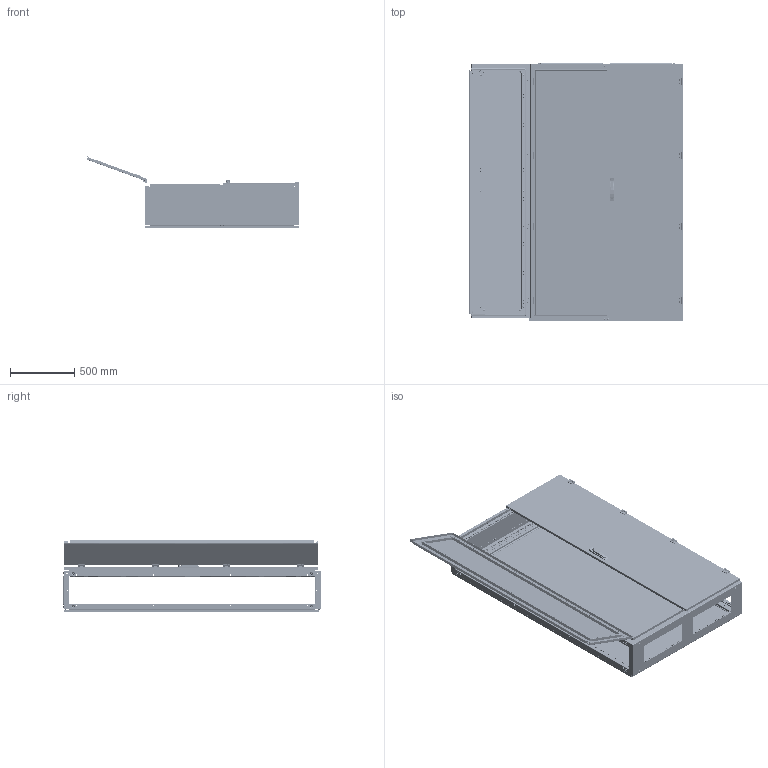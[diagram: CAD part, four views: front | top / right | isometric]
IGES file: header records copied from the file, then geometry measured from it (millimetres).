
Start section: SolidWorks IGES file using analytic representation for surfaces
Global section: file name: U:\14_RD\05_Technical_office\04_Office\Hrdinova\3D modely - IGES\Distri\QA201203.IGS; native system: SolidWorks 2011; preprocessor: SolidWorks 2011; author: adhrja3; date: 170613.103543; units: millimetre
Bounding box: 1668.78 x 2004.5 x 562.7 mm (x, y, z)
Surface area: 17276125.1 mm2 (no closed solid volume)
Topology: 0 solids, 0 shells, 8939 faces, 153523 edges, 153239 vertices
Faces by surface type: bspline 4692, revolution 4247
